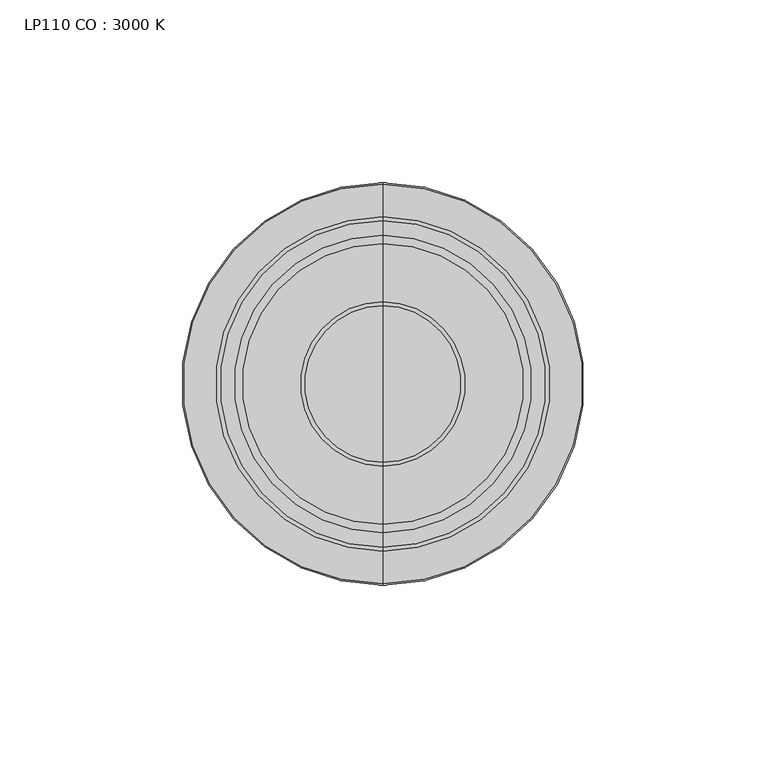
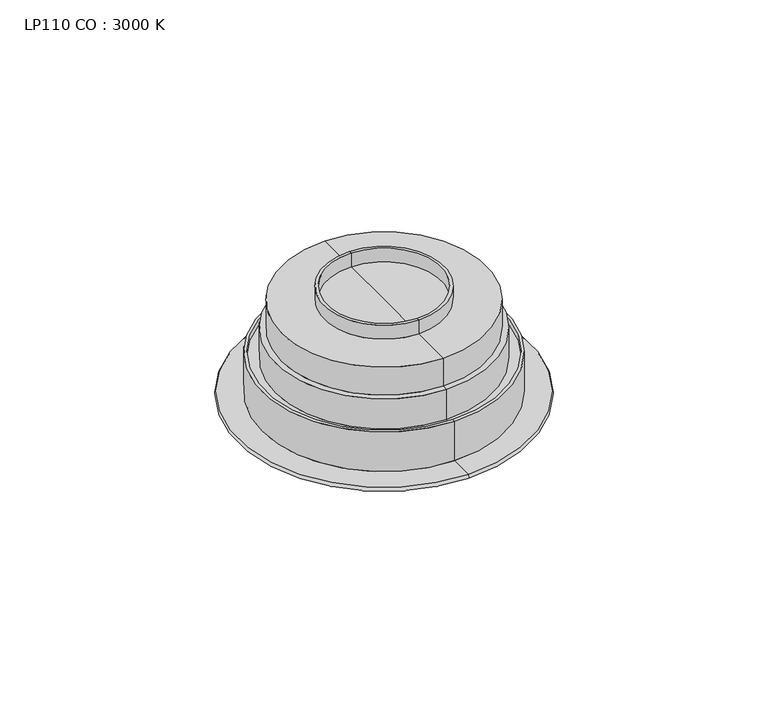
"""IFC4 building model written with IfcOpenShell, lengths in millimetres: light fixture geometry, LP110 CO : 3000 K."""

import ifcopenshell
import ifcopenshell.guid

model = None  # the IFC model being written
_history = None  # IfcOwnerHistory: only IFC2X3 demands one
_inside = {}  # id of a spatial element -> (the spatial element, [elements in it])
_under = {}  # id of a project, library or spatial element -> (it, [spatial elements below it])
_declared = {}  # id of a project -> (the project, [libraries it declares])
_typed = {}  # id of a type object -> (the type object, [elements of that type])
_made_of = {}  # id of a material, layer set ... -> (it, [elements and type objects made of it])


def new_model(schema):
    """Start an empty IFC model of exactly this schema.

    Asked for "IFC4X3", IfcOpenShell would pick the latest addendum, in which some entities
    have other attributes; the version numbers below select the first issue.
    IFC2X3 requires an IfcOwnerHistory on every rooted entity: one is made here for all.
    """
    global model, _history
    if schema == "IFC4X3":
        model = ifcopenshell.file(schema_version=(4, 3, 0, 0))
    else:
        model = ifcopenshell.file(schema=schema)
    _inside.clear()
    _under.clear()
    _declared.clear()
    _typed.clear()
    _made_of.clear()
    _history = None
    if model.schema == "IFC2X3":
        org = make("IfcOrganization", Name="unknown")
        user = make(
            "IfcPersonAndOrganization",
            ThePerson=make("IfcPerson", FamilyName="unknown"),
            TheOrganization=org,
        )
        app = make(
            "IfcApplication",
            ApplicationDeveloper=org,
            Version="unknown",
            ApplicationFullName="unknown",
            ApplicationIdentifier="unknown",
        )
        _history = make(
            "IfcOwnerHistory",
            OwningUser=user,
            OwningApplication=app,
            ChangeAction="ADDED",
            CreationDate=0,
        )
    return model


def make(cls, **values):
    """One entity of the class cls with the attributes given. An attribute that is None is left unset."""
    return model.create_entity(
        cls, **{name: value for name, value in values.items() if value is not None}
    )


def rooted(cls, **values):
    """An entity with a GlobalId (a new one), such as an element, a storey or a relation."""
    return make(cls, GlobalId=ifcopenshell.guid.new(), OwnerHistory=_history, **values)


def si_unit(unit_type, name, prefix=None):
    """IfcSIUnit, for example si_unit("LENGTHUNIT", "METRE", prefix="MILLI")."""
    return make("IfcSIUnit", UnitType=unit_type, Prefix=prefix, Name=name)


def assignment(units):
    """IfcUnitAssignment: the units of a project."""
    return None if units is None else make("IfcUnitAssignment", Units=units)


def point(xyz):
    """IfcCartesianPoint."""
    return None if xyz is None else make("IfcCartesianPoint", Coordinates=xyz)


def direction(xyz):
    """IfcDirection."""
    return None if xyz is None else make("IfcDirection", DirectionRatios=xyz)


def frame(location, z_axis=None, x_axis=None):
    """IfcAxis2Placement3D, a coordinate frame: its origin and axes. An axis left out is left unset."""
    return make(
        "IfcAxis2Placement3D",
        Location=point(location),
        Axis=direction(z_axis),
        RefDirection=direction(x_axis),
    )


def frame_2d(location, x_axis=None):
    """IfcAxis2Placement2D, a coordinate frame in the plane: its origin and x axis."""
    return make(
        "IfcAxis2Placement2D", Location=point(location), RefDirection=direction(x_axis)
    )


def origin():
    """The frame at (0, 0, 0) with its axes left unset."""
    return frame((0.0, 0.0, 0.0))


def place(relative_to, where):
    """IfcLocalPlacement: puts the frame where relative to a parent placement (None: the world)."""
    return make(
        "IfcLocalPlacement", PlacementRelTo=relative_to, RelativePlacement=where
    )


def context(
    kind, dimensions, precision=None, world=None, true_north=None, identifier=None
):
    """IfcGeometricRepresentationContext, for example the 3D "Model" context."""
    return make(
        "IfcGeometricRepresentationContext",
        ContextIdentifier=identifier,
        ContextType=kind,
        CoordinateSpaceDimension=dimensions,
        Precision=precision,
        WorldCoordinateSystem=world,
        TrueNorth=true_north,
    )


def project(units=None, contexts=None):
    """IfcProject with its units and contexts."""
    return rooted(
        "IfcProject",
        Name="project",
        RepresentationContexts=contexts,
        UnitsInContext=assignment(units),
    )


def spatial(cls, under=None, at=None, **own):
    """A site, building, storey or space (cls), placed at a placement, below another one or the project."""
    s = rooted(cls, ObjectPlacement=at, **own)
    if under is not None:
        _under.setdefault(under.id(), (under, []))[1].append(s)
    return s


def polyline(points):
    """IfcPolyline through the points."""
    return make("IfcPolyline", Points=[point(p) for p in points])


def circle_curve(where, radius):
    """IfcCircle in the frame where."""
    return make("IfcCircle", Position=where, Radius=radius)


def ellipse_curve(where, semi_axis1, semi_axis2):
    """IfcEllipse in the frame where."""
    return make(
        "IfcEllipse", Position=where, SemiAxis1=semi_axis1, SemiAxis2=semi_axis2
    )


def trimmed(basis, trim1, trim2, sense, master):
    """IfcTrimmedCurve: the piece of a basis curve between two trims."""
    return make(
        "IfcTrimmedCurve",
        BasisCurve=basis,
        Trim1=trim1,
        Trim2=trim2,
        SenseAgreement=sense,
        MasterRepresentation=master,
    )


def segment(curve, same_sense, transition):
    """IfcCompositeCurveSegment."""
    return make(
        "IfcCompositeCurveSegment",
        Transition=transition,
        SameSense=same_sense,
        ParentCurve=curve,
    )


def composite_curve(segments, self_intersect=None):
    """IfcCompositeCurve: segments joined end to end."""
    return make("IfcCompositeCurve", Segments=segments, SelfIntersect=self_intersect)


def outline(outer, holes=None, kind="AREA"):
    """IfcArbitraryClosedProfileDef: a profile drawn as a closed curve; with holes, ...WithVoids."""
    if holes is None:
        return make("IfcArbitraryClosedProfileDef", ProfileType=kind, OuterCurve=outer)
    return make(
        "IfcArbitraryProfileDefWithVoids",
        ProfileType=kind,
        OuterCurve=outer,
        InnerCurves=holes,
    )


def extrude(swept, where, along, depth):
    """IfcExtrudedAreaSolid: the profile swept, set in the frame where, extruded along a direction by depth."""
    return make(
        "IfcExtrudedAreaSolid",
        SweptArea=swept,
        Position=where,
        ExtrudedDirection=direction(along),
        Depth=depth,
    )


def shape(context_of_items, identifier, shape_type, items):
    """IfcShapeRepresentation: the items that make up one representation, for example the "Body"."""
    return make(
        "IfcShapeRepresentation",
        ContextOfItems=context_of_items,
        RepresentationIdentifier=identifier,
        RepresentationType=shape_type,
        Items=items,
    )


def source(mapping_origin, context_of_items, identifier, shape_type, items):
    """IfcRepresentationMap: a shape defined once, which mapped items show again and again."""
    return make(
        "IfcRepresentationMap",
        MappingOrigin=mapping_origin,
        MappedRepresentation=shape(context_of_items, identifier, shape_type, items),
    )


def transform(
    local_origin,
    x_axis=None,
    y_axis=None,
    z_axis=None,
    scale=None,
    scale2=None,
    scale3=None,
    uniform=True,
):
    """IfcCartesianTransformationOperator3D, or its non-uniform kind. x_axis, y_axis, z_axis: its Axis1, 2, 3."""
    if uniform:
        return make(
            "IfcCartesianTransformationOperator3D",
            Axis1=direction(x_axis),
            Axis2=direction(y_axis),
            LocalOrigin=point(local_origin),
            Scale=scale,
            Axis3=direction(z_axis),
        )
    return make(
        "IfcCartesianTransformationOperator3DnonUniform",
        Axis1=direction(x_axis),
        Axis2=direction(y_axis),
        LocalOrigin=point(local_origin),
        Scale=scale,
        Axis3=direction(z_axis),
        Scale2=scale2,
        Scale3=scale3,
    )


def mapped(mapping_source, mapping_target):
    """IfcMappedItem: shows the shape of a source again, moved by a transform."""
    return make(
        "IfcMappedItem", MappingSource=mapping_source, MappingTarget=mapping_target
    )


def made_of(thing, what):
    """Note that an element or type object is made of a material, layer set ...; save() writes the relation."""
    if what is not None:
        _made_of.setdefault(what.id(), (what, []))[1].append(thing)
    return thing


def element(
    cls,
    number,
    at=None,
    inside=None,
    cuts=None,
    type_object=None,
    material=None,
    context=None,
    identifier="Body",
    shape_type=None,
    held_by="IfcProductDefinitionShape",
    body=None,
    shapes=None,
    **own,
):
    """One element of the class cls, such as IfcWall. Its Tag is "e" and its number.

    at: its placement. inside: the storey or other place that contains it. cuts: it is an
    opening in that element (IfcRelVoidsElement). A single representation is given by context,
    identifier, shape_type and body (its items); several are given by shapes. held_by: the class
    of the entity that holds the representations. save() writes the other relations.
    """
    e = rooted(cls, Tag="e%d" % number, ObjectPlacement=at, **own)
    if body is not None:
        shapes = [shape(context, identifier, shape_type, body)]
    if shapes is not None:
        e.Representation = make(held_by, Representations=shapes)
    if inside is not None:
        _inside.setdefault(inside.id(), (inside, []))[1].append(e)
    if cuts is not None:
        rooted(
            "IfcRelVoidsElement", RelatingBuildingElement=cuts, RelatedOpeningElement=e
        )
    if type_object is not None:
        _typed.setdefault(type_object.id(), (type_object, []))[1].append(e)
    return made_of(e, material)


def aggregate(whole, parts):
    """IfcRelAggregates: a whole, such as a stair, and the parts it consists of."""
    return rooted("IfcRelAggregates", RelatingObject=whole, RelatedObjects=parts)


def save(model, path):
    """Write the relations noted so far, then the file.

    IfcRelAggregates (storeys below a building ...), IfcRelContainedInSpatialStructure (elements
    in a storey), IfcRelDefinesByType, IfcRelAssociatesMaterial and IfcRelDeclares: one each for
    every whole, place, type object, material and project.
    """
    for whole, parts in _under.values():
        aggregate(whole, parts)
    for where, things in _inside.values():
        rooted(
            "IfcRelContainedInSpatialStructure",
            RelatedElements=things,
            RelatingStructure=where,
        )
    for kind, things in _typed.values():
        rooted("IfcRelDefinesByType", RelatedObjects=things, RelatingType=kind)
    for what, things in _made_of.values():
        rooted("IfcRelAssociatesMaterial", RelatedObjects=things, RelatingMaterial=what)
    for by, libraries in _declared.values():
        rooted("IfcRelDeclares", RelatingContext=by, RelatedDefinitions=libraries)
    model.write(path)


def plane_surface(at):
    """IfcPlane: the flat surface through the origin of the frame at, square to its z axis."""
    return make("IfcPlane", Position=at)


def cylinder_surface(at, radius):
    """IfcCylindricalSurface: all points at the distance radius from the z axis of the frame at."""
    return make("IfcCylindricalSurface", Position=at, Radius=radius)


def revolved_surface(curve, axis_point, axis_direction):
    """IfcSurfaceOfRevolution: the curve turned about the line through axis_point along axis_direction."""
    return make(
        "IfcSurfaceOfRevolution",
        SweptCurve=make("IfcArbitraryOpenProfileDef", ProfileType="CURVE", Curve=curve),
        AxisPosition=make("IfcAxis1Placement", Location=point(axis_point), Axis=direction(axis_direction)),
    )


def advanced_brep(points, edges, surfaces, faces):
    """IfcAdvancedBrep: a solid bounded by faces that lie on surfaces and meet in shared edges.

    An edge is (start, end): straight between two places in points (the first is 0);
    or (start, end, curve); or (start, end, curve, False) where it runs against its curve.
    A face is (place in surfaces, loops), or (place, loops, False) where it looks against
    its surface's normal. A loop lists edges by number (the first is 1), with a minus sign
    where the edge is run from its end to its start. The first loop is the outer one.
    """
    corners = [point(p) for p in points]
    vertices = [make("IfcVertexPoint", VertexGeometry=c) for c in corners]
    made = []
    for start, end, *more in edges:
        made.append(
            make(
                "IfcEdgeCurve",
                EdgeStart=vertices[start],
                EdgeEnd=vertices[end],
                EdgeGeometry=more[0] if more else make("IfcPolyline", Points=[corners[start], corners[end]]),
                SameSense=more[1] if len(more) > 1 else True,
            )
        )
    hull = []
    for where, loops, *sense in faces:
        bounds = []
        for j, loop in enumerate(loops):
            ring = [make("IfcOrientedEdge", EdgeElement=made[abs(k) - 1], Orientation=k > 0) for k in loop]
            bounds.append(
                make(
                    "IfcFaceOuterBound" if j == 0 else "IfcFaceBound",
                    Bound=make("IfcEdgeLoop", EdgeList=ring),
                    Orientation=True,
                )
            )
        hull.append(make("IfcAdvancedFace", Bounds=bounds, FaceSurface=surfaces[where], SameSense=sense[0] if sense else True))
    return make("IfcAdvancedBrep", Outer=make("IfcClosedShell", CfsFaces=hull))


def lp110_co_3000_k_61e16603(model_context):
    return source(origin(), model_context, "Body", "SolidModel", [
        advanced_brep(
        [(-14.9633905, 0.0, 3982.2801125), (14.9633905, 0.0, 3982.2801125), (3.792903, 0.0, 3980.55143), (-3.792903, 0.0, 3980.55143), (0.0, 0.0, 3982.2801125), (3.485496, 0.0, 3980.55143), (-3.4925598, 0.0, 3980.55143), (-3.4925954, -0.0157564, 3981.9900072), (3.4855316, -0.0157564, 3981.9900072)],
        [
            (0, 1, circle_curve(frame((0.0, 0.0, 3982.2801125), z_axis=(0.0, 0.0, -1.0), x_axis=(1.0, 0.0, 0.0)), 14.9633905)),
            (1, 2, circle_curve(frame((3.792903, 0.0, 4017.5067795), z_axis=(0.0, 1.0, 0.0), x_axis=(1.0, 0.0, 0.0)), 36.9553496)),
            (2, 3, circle_curve(frame((0.0, 0.0, 3980.55143), z_axis=(0.0, 0.0, 1.0), x_axis=(1.0, 0.0, 0.0)), 3.792903)),
            (3, 0, circle_curve(frame((-3.792903, 0.0, 4017.5067795), z_axis=(0.0, 1.0, 0.0), x_axis=(-1.0, 0.0, 0.0)), 36.9553496)),
            (1, 0, circle_curve(frame((0.0, 0.0, 3982.2801125), z_axis=(0.0, 0.0, -1.0), x_axis=(1.0, 0.0, 0.0)), 14.9633905)),
            (3, 2, circle_curve(frame((0.0, 0.0, 3980.55143), z_axis=(0.0, 0.0, 1.0), x_axis=(1.0, 0.0, 0.0)), 3.792903)),
            (0, 4),
            (4, 1),
            (2, 5),
            (5, 6, circle_curve(frame((-0.0035319, -0.0157564, 3980.55143), z_axis=(0.0, 0.0, 1.0), x_axis=(1.0, 0.0, 0.0)), 3.4890635)),
            (6, 3),
            (6, 5, circle_curve(frame((-0.0035319, -0.0157564, 3980.55143), z_axis=(0.0, 0.0, 1.0), x_axis=(1.0, 0.0, 0.0)), 3.4890635)),
            (7, 8, circle_curve(frame((-0.0035319, -0.0157564, 3981.9900072), z_axis=(0.0, 0.0, -1.0), x_axis=(1.0, 0.0, 0.0)), 3.4890635)),
            (8, 7, circle_curve(frame((-0.0035319, -0.0157564, 3981.9900072), z_axis=(0.0, 0.0, -1.0), x_axis=(1.0, 0.0, 0.0)), 3.4890635)),
            (8, 5),
            (6, 7),
        ],
        [
            revolved_surface(trimmed(ellipse_curve(frame((3.792903, 0.0, 4017.5067795), z_axis=(0.0, -1.0, 0.0), x_axis=(1.0, 0.0, 0.0)), 36.9553496, 36.9553496), [point((3.792903, 0.0, 3980.55143))], [point((14.9633905, 0.0, 3982.2801125))], True, "CARTESIAN"), (0.0, 0.0, 4324.4347907), (0.0, 0.0, 1.0)),
            plane_surface(frame((0.0, 0.0, 3982.2801125), z_axis=(0.0, 0.0, 1.0), x_axis=(1.0, 0.0, 0.0))),
            plane_surface(frame((0.0, 0.0, 3980.55143), z_axis=(0.0, 0.0, -1.0), x_axis=(1.0, 0.0, 0.0))),
            plane_surface(frame((3.4855316, -0.0157564, 3981.9900072), z_axis=(0.0, 0.0, -1.0), x_axis=(0.0, 1.0, 0.0))),
            revolved_surface(polyline([(3.4855316, -0.0157564, 3981.9900072), (3.4855316, -0.0157564, 3980.55143)]), (-0.0035319, -0.0157564, 3980.3246208), (0.0, 0.0, 1.0)),
        ],
        [
            (0, [[1, 2, 3, 4]]),
            (0, [[-2, 5, -4, 6]]),
            (1, [[-1, 7, 8]]),
            (1, [[-5, -8, -7]]),
            (2, [[-3, 9, 10, 11]]),
            (2, [[-6, -11, 12, -9]]),
            (3, [[13, 14]]),
            (4, [[-14, 15, -12, 16]]),
            (4, [[-13, -16, -10, -15]]),
        ],
    ),
        extrude(outline(composite_curve([segment(trimmed(circle_curve(frame_2d((2.37e-05, -0.0016166)), 40.0), [point((-39.9999763, -0.0016166))], [point((40.0000237, -0.0016166))], False, "CARTESIAN"), True, "CONTINUOUS"), segment(trimmed(circle_curve(frame_2d((2.37e-05, -0.0016166)), 40.0), [point((40.0000237, -0.0016166))], [point((-39.9999763, -0.0016166))], False, "CARTESIAN"), True, "CONTINUOUS")], self_intersect=False), holes=[composite_curve([segment(trimmed(circle_curve(frame_2d((2.37e-05, -0.0016166)), 29.1123547), [point((-29.112331, -0.0016166))], [point((29.1123784, -0.0016166))], True, "CARTESIAN"), True, "CONTINUOUS"), segment(trimmed(circle_curve(frame_2d((2.37e-05, -0.0016166)), 29.1123547), [point((29.1123784, -0.0016166))], [point((-29.112331, -0.0016166))], True, "CARTESIAN"), True, "CONTINUOUS")], self_intersect=False)]), frame((0.0, 0.0, 3993.7328869), z_axis=(0.0, 0.0, 1.0), x_axis=(1.0, 0.0, 0.0)), (0.0, 0.0, 1.0), 0.5),
        advanced_brep(
        [(0.0, 19.2991185, 3992.1100072), (0.0, -19.2991185, 3992.1100072), (0.0, -19.2991185, 3994.9717385), (0.0, 19.2991185, 3994.9717385), (0.0, 0.0, 3992.1100072), (0.0, 0.0, 3994.9717385)],
        [
            (0, 1, circle_curve(frame((0.0, 0.0, 3992.1100072), z_axis=(0.0, 0.0, 1.0), x_axis=(0.0, -1.0, 0.0)), 19.2991185)),
            (1, 2),
            (2, 3, circle_curve(frame((0.0, 0.0, 3994.9717385), z_axis=(0.0, 0.0, -1.0), x_axis=(0.0, -1.0, 0.0)), 19.2991185)),
            (3, 0),
            (1, 0, circle_curve(frame((0.0, 0.0, 3992.1100072), z_axis=(0.0, 0.0, 1.0), x_axis=(0.0, -1.0, 0.0)), 19.2991185)),
            (3, 2, circle_curve(frame((0.0, 0.0, 3994.9717385), z_axis=(0.0, 0.0, -1.0), x_axis=(0.0, -1.0, 0.0)), 19.2991185)),
            (4, 1),
            (0, 4),
            (2, 5),
            (5, 3),
        ],
        [
            cylinder_surface(frame((0.0, 0.0, 4284.4582372), z_axis=(0.0, 0.0, -1.0), x_axis=(0.0, -1.0, 0.0)), 19.2991185),
            plane_surface(frame((0.0, 0.0, 3992.1100072), z_axis=(0.0, 0.0, -1.0), x_axis=(0.0, -1.0, 0.0))),
            plane_surface(frame((0.0, 0.0, 3994.9717385), z_axis=(0.0, 0.0, 1.0), x_axis=(0.0, -1.0, 0.0))),
        ],
        [
            (0, [[1, 2, 3, 4]]),
            (0, [[5, -4, 6, -2]]),
            (1, [[7, -1, 8]]),
            (1, [[-8, -5, -7]]),
            (2, [[-3, 9, 10]]),
            (2, [[-6, -10, -9]]),
        ],
    ),
        advanced_brep(
        [(0.0, 38.41986, 4025.2200055), (0.0, -38.41986, 4025.2200055), (0.0, -38.41986, 4036.27), (0.0, 38.41986, 4036.27), (0.0, 40.6278014, 4025.2200055), (0.0, -40.6278014, 4025.2200055), (0.0, 40.6278014, 4013.3214017), (0.0, -40.6278014, 4013.3214017), (0.0, 44.6302193, 4013.3214017), (0.0, -44.6302193, 4013.3214017), (0.0, 44.6302193, 4015.63), (0.0, -44.6302193, 4015.63), (0.0, 45.6921331, 4015.63), (0.0, -45.6921331, 4015.63), (0.0, 45.6921331, 4000.0), (0.0, -45.6921331, 4000.0), (0.0, 0.0, 4000.0), (0.0, -22.4510975, 4036.27), (0.0, 22.4510975, 4036.27), (0.0, 21.4345521, 4036.27), (0.0, -21.4345521, 4036.27), (0.0, 0.0, 4036.27), (0.0, 21.4345521, 4041.77), (0.0, -21.4345521, 4041.77), (0.0, 22.4510975, 4041.77), (0.0, -22.4510975, 4041.77)],
        [
            (0, 1, circle_curve(frame((0.0, 0.0, 4025.2200055), z_axis=(0.0, 0.0, 1.0), x_axis=(0.0, -1.0, 0.0)), 38.41986)),
            (1, 2),
            (2, 3, circle_curve(frame((0.0, 0.0, 4036.27), z_axis=(0.0, 0.0, -1.0), x_axis=(0.0, -1.0, 0.0)), 38.41986)),
            (3, 0),
            (1, 0, circle_curve(frame((0.0, 0.0, 4025.2200055), z_axis=(0.0, 0.0, 1.0), x_axis=(0.0, -1.0, 0.0)), 38.41986)),
            (3, 2, circle_curve(frame((0.0, 0.0, 4036.27), z_axis=(0.0, 0.0, -1.0), x_axis=(0.0, -1.0, 0.0)), 38.41986)),
            (4, 5, circle_curve(frame((0.0, 0.0, 4025.2200055), z_axis=(0.0, 0.0, 1.0), x_axis=(0.0, -1.0, 0.0)), 40.6278014)),
            (5, 1),
            (0, 4),
            (5, 4, circle_curve(frame((0.0, 0.0, 4025.2200055), z_axis=(0.0, 0.0, 1.0), x_axis=(0.0, -1.0, 0.0)), 40.6278014)),
            (6, 7, circle_curve(frame((0.0, 0.0, 4013.3214017), z_axis=(0.0, 0.0, 1.0), x_axis=(0.0, -1.0, 0.0)), 40.6278014)),
            (7, 5),
            (4, 6),
            (7, 6, circle_curve(frame((0.0, 0.0, 4013.3214017), z_axis=(0.0, 0.0, 1.0), x_axis=(0.0, -1.0, 0.0)), 40.6278014)),
            (8, 9, circle_curve(frame((0.0, 0.0, 4013.3214017), z_axis=(0.0, 0.0, 1.0), x_axis=(0.0, -1.0, 0.0)), 44.6302193)),
            (9, 7),
            (6, 8),
            (9, 8, circle_curve(frame((0.0, 0.0, 4013.3214017), z_axis=(0.0, 0.0, 1.0), x_axis=(0.0, -1.0, 0.0)), 44.6302193)),
            (10, 11, circle_curve(frame((0.0, 0.0, 4015.63), z_axis=(0.0, 0.0, 1.0), x_axis=(0.0, -1.0, 0.0)), 44.6302193)),
            (11, 9),
            (8, 10),
            (11, 10, circle_curve(frame((0.0, 0.0, 4015.63), z_axis=(0.0, 0.0, 1.0), x_axis=(0.0, -1.0, 0.0)), 44.6302193)),
            (12, 13, circle_curve(frame((0.0, 0.0, 4015.63), z_axis=(0.0, 0.0, 1.0), x_axis=(0.0, -1.0, 0.0)), 45.6921331)),
            (13, 11),
            (10, 12),
            (13, 12, circle_curve(frame((0.0, 0.0, 4015.63), z_axis=(0.0, 0.0, 1.0), x_axis=(0.0, -1.0, 0.0)), 45.6921331)),
            (14, 15, circle_curve(frame((0.0, 0.0, 4000.0), z_axis=(0.0, 0.0, 1.0), x_axis=(0.0, -1.0, 0.0)), 45.6921331)),
            (15, 13),
            (12, 14),
            (15, 14, circle_curve(frame((0.0, 0.0, 4000.0), z_axis=(0.0, 0.0, 1.0), x_axis=(0.0, -1.0, 0.0)), 45.6921331)),
            (16, 15),
            (14, 16),
            (2, 17),
            (17, 18, circle_curve(frame((0.0, 0.0, 4036.27), z_axis=(0.0, 0.0, -1.0), x_axis=(0.0, -1.0, 0.0)), 22.4510975)),
            (18, 3),
            (18, 17, circle_curve(frame((0.0, 0.0, 4036.27), z_axis=(0.0, 0.0, -1.0), x_axis=(0.0, -1.0, 0.0)), 22.4510975)),
            (19, 20, circle_curve(frame((0.0, 0.0, 4036.27), z_axis=(0.0, 0.0, 1.0), x_axis=(0.0, -1.0, 0.0)), 21.4345521)),
            (20, 21),
            (21, 19),
            (20, 19, circle_curve(frame((0.0, 0.0, 4036.27), z_axis=(0.0, 0.0, 1.0), x_axis=(0.0, -1.0, 0.0)), 21.4345521)),
            (22, 23, circle_curve(frame((0.0, 0.0, 4041.77), z_axis=(0.0, 0.0, 1.0), x_axis=(0.0, -1.0, 0.0)), 21.4345521)),
            (23, 20),
            (19, 22),
            (23, 22, circle_curve(frame((0.0, 0.0, 4041.77), z_axis=(0.0, 0.0, 1.0), x_axis=(0.0, -1.0, 0.0)), 21.4345521)),
            (24, 25, circle_curve(frame((0.0, 0.0, 4041.77), z_axis=(0.0, 0.0, 1.0), x_axis=(0.0, -1.0, 0.0)), 22.4510975)),
            (25, 23),
            (22, 24),
            (25, 24, circle_curve(frame((0.0, 0.0, 4041.77), z_axis=(0.0, 0.0, 1.0), x_axis=(0.0, -1.0, 0.0)), 22.4510975)),
            (17, 25),
            (24, 18),
        ],
        [
            cylinder_surface(frame((0.0, 0.0, 4369.9206714), z_axis=(0.0, 0.0, -1.0), x_axis=(0.0, -1.0, 0.0)), 38.41986),
            plane_surface(frame((0.0, 0.0, 4025.2200055), z_axis=(0.0, 0.0, 1.0), x_axis=(0.0, -1.0, 0.0))),
            cylinder_surface(frame((0.0, 0.0, 4369.9206714), z_axis=(0.0, 0.0, -1.0), x_axis=(0.0, -1.0, 0.0)), 40.6278014),
            plane_surface(frame((0.0, 0.0, 4013.3214017), z_axis=(0.0, 0.0, 1.0), x_axis=(0.0, -1.0, 0.0))),
            revolved_surface(polyline([(0.0, -44.6302193, 4013.3214017), (0.0, -44.6302193, 4015.63)]), (0.0, 0.0, 4369.9206714), (0.0, 0.0, -1.0)),
            plane_surface(frame((0.0, 0.0, 4015.63), z_axis=(0.0, 0.0, 1.0), x_axis=(0.0, -1.0, 0.0))),
            cylinder_surface(frame((0.0, 0.0, 4369.9206714), z_axis=(0.0, 0.0, -1.0), x_axis=(0.0, -1.0, 0.0)), 45.6921331),
            plane_surface(frame((0.0, 0.0, 4000.0), z_axis=(0.0, 0.0, -1.0), x_axis=(0.0, -1.0, 0.0))),
            plane_surface(frame((0.0, 0.0, 4036.27), z_axis=(0.0, 0.0, 1.0), x_axis=(0.0, -1.0, 0.0))),
            revolved_surface(polyline([(0.0, -21.4345521, 4036.27), (0.0, -21.4345521, 4041.77)]), (0.0, 0.0, 4369.9206714), (0.0, 0.0, -1.0)),
            plane_surface(frame((0.0, 0.0, 4041.77), z_axis=(0.0, 0.0, 1.0), x_axis=(0.0, -1.0, 0.0))),
            cylinder_surface(frame((0.0, 0.0, 4369.9206714), z_axis=(0.0, 0.0, -1.0), x_axis=(0.0, -1.0, 0.0)), 22.4510975),
        ],
        [
            (0, [[1, 2, 3, 4]]),
            (0, [[5, -4, 6, -2]]),
            (1, [[7, 8, -1, 9]]),
            (1, [[10, -9, -5, -8]]),
            (2, [[11, 12, -7, 13]]),
            (2, [[14, -13, -10, -12]]),
            (3, [[15, 16, -11, 17]]),
            (3, [[18, -17, -14, -16]]),
            (4, [[19, 20, -15, 21]]),
            (4, [[22, -21, -18, -20]]),
            (5, [[23, 24, -19, 25]]),
            (5, [[26, -25, -22, -24]]),
            (6, [[27, 28, -23, 29]]),
            (6, [[30, -29, -26, -28]]),
            (7, [[31, -27, 32]]),
            (7, [[-32, -30, -31]]),
            (8, [[-3, 33, 34, 35]]),
            (8, [[-6, -35, 36, -33]]),
            (8, [[37, 38, 39]]),
            (8, [[40, -39, -38]]),
            (9, [[41, 42, -37, 43]]),
            (9, [[44, -43, -40, -42]]),
            (10, [[45, 46, -41, 47]]),
            (10, [[48, -47, -44, -46]]),
            (11, [[-34, 49, -45, 50]]),
            (11, [[-36, -50, -48, -49]]),
        ],
    ),
        advanced_brep(
        [(-17.3801122, 0.0, 3983.4703857), (17.3801122, 0.0, 3983.4703857), (0.0, 0.0, 3983.4703857), (-20.0285612, 0.0, 3988.492432), (20.0285612, 0.0, 3988.492432), (-20.0285612, 0.0, 3992.1100072), (20.0285612, 0.0, 3992.1100072), (0.0, 0.0, 3992.1100072)],
        [
            (0, 1, circle_curve(frame((0.0, 0.0, 3983.4703857), z_axis=(0.0, 0.0, -1.0), x_axis=(1.0, 0.0, 0.0)), 17.3801122)),
            (1, 2),
            (2, 0),
            (1, 0, circle_curve(frame((0.0, 0.0, 3983.4703857), z_axis=(0.0, 0.0, -1.0), x_axis=(1.0, 0.0, 0.0)), 17.3801122)),
            (3, 4, circle_curve(frame((0.0, 0.0, 3988.492432), z_axis=(0.0, 0.0, -1.0), x_axis=(1.0, 0.0, 0.0)), 20.0285612)),
            (4, 1, circle_curve(frame((13.9428803, 0.0, 3988.492432), z_axis=(0.0, 1.0, 0.0), x_axis=(1.0, 0.0, 0.0)), 6.0856809)),
            (0, 3, circle_curve(frame((-13.9428803, 0.0, 3988.492432), z_axis=(0.0, 1.0, 0.0), x_axis=(-1.0, 0.0, 0.0)), 6.0856809)),
            (4, 3, circle_curve(frame((0.0, 0.0, 3988.492432), z_axis=(0.0, 0.0, -1.0), x_axis=(1.0, 0.0, 0.0)), 20.0285612)),
            (5, 6, circle_curve(frame((0.0, 0.0, 3992.1100072), z_axis=(0.0, 0.0, -1.0), x_axis=(1.0, 0.0, 0.0)), 20.0285612)),
            (6, 4),
            (3, 5),
            (6, 5, circle_curve(frame((0.0, 0.0, 3992.1100072), z_axis=(0.0, 0.0, -1.0), x_axis=(1.0, 0.0, 0.0)), 20.0285612)),
            (7, 6),
            (5, 7),
        ],
        [
            plane_surface(frame((0.0, 0.0, 3983.4703857), z_axis=(0.0, 0.0, -1.0), x_axis=(1.0, 0.0, 0.0))),
            revolved_surface(trimmed(ellipse_curve(frame((13.9428803, 0.0, 3988.492432), z_axis=(0.0, -1.0, 0.0), x_axis=(1.0, 0.0, 0.0)), 6.0856809, 6.0856809), [point((17.3801122, 0.0, 3983.4703857))], [point((20.0285612, 0.0, 3988.492432))], True, "CARTESIAN"), (0.0, 0.0, 4324.4347907), (0.0, 0.0, 1.0)),
            cylinder_surface(frame((0.0, 0.0, 4324.4347907), z_axis=(0.0, 0.0, 1.0), x_axis=(1.0, 0.0, 0.0)), 20.0285612),
            plane_surface(frame((0.0, 0.0, 3992.1100072), z_axis=(0.0, 0.0, 1.0), x_axis=(1.0, 0.0, 0.0))),
        ],
        [
            (0, [[1, 2, 3]]),
            (0, [[4, -3, -2]]),
            (1, [[5, 6, -1, 7]]),
            (1, [[8, -7, -4, -6]]),
            (2, [[9, 10, -5, 11]]),
            (2, [[12, -11, -8, -10]]),
            (3, [[13, -9, 14]]),
            (3, [[-14, -12, -13]]),
        ],
    ),
        advanced_brep(
        [(-17.3801122, 0.0, 3984.9900072), (17.3801122, 0.0, 3984.9900072), (17.3801122, 0.0, 3983.4703857), (-17.3801122, 0.0, 3983.4703857), (0.0, 0.0, 3984.9900072), (-16.685632, 0.0, 3983.0694274), (16.685632, 0.0, 3983.0694274), (0.0, 0.0, 3983.0694274)],
        [
            (0, 1, circle_curve(frame((0.0, 0.0, 3984.9900072), z_axis=(0.0, 0.0, -1.0), x_axis=(1.0, 0.0, 0.0)), 17.3801122)),
            (1, 2),
            (2, 3, circle_curve(frame((0.0, 0.0, 3983.4703857), z_axis=(0.0, 0.0, 1.0), x_axis=(1.0, 0.0, 0.0)), 17.3801122)),
            (3, 0),
            (1, 0, circle_curve(frame((0.0, 0.0, 3984.9900072), z_axis=(0.0, 0.0, -1.0), x_axis=(1.0, 0.0, 0.0)), 17.3801122)),
            (3, 2, circle_curve(frame((0.0, 0.0, 3983.4703857), z_axis=(0.0, 0.0, 1.0), x_axis=(1.0, 0.0, 0.0)), 17.3801122)),
            (4, 1),
            (0, 4),
            (5, 6, circle_curve(frame((0.0, 0.0, 3983.0694274), z_axis=(0.0, 0.0, -1.0), x_axis=(1.0, 0.0, 0.0)), 16.685632)),
            (6, 7),
            (7, 5),
            (6, 5, circle_curve(frame((0.0, 0.0, 3983.0694274), z_axis=(0.0, 0.0, -1.0), x_axis=(1.0, 0.0, 0.0)), 16.685632)),
            (2, 6),
            (5, 3),
        ],
        [
            cylinder_surface(frame((0.0, 0.0, 4324.4347907), z_axis=(0.0, 0.0, 1.0), x_axis=(1.0, 0.0, 0.0)), 17.3801122),
            plane_surface(frame((0.0, 0.0, 3984.9900072), z_axis=(0.0, 0.0, 1.0), x_axis=(1.0, 0.0, 0.0))),
            plane_surface(frame((0.0, 0.0, 3983.0694274), z_axis=(0.0, 0.0, -1.0), x_axis=(1.0, 0.0, 0.0))),
            revolved_surface(polyline([(16.685632, 0.0, 3983.0694274), (17.3801122, 0.0, 3983.4703857)]), (0.0, 0.0, 4324.4347907), (0.0, 0.0, 1.0)),
        ],
        [
            (0, [[1, 2, 3, 4]]),
            (0, [[5, -4, 6, -2]]),
            (1, [[7, -1, 8]]),
            (1, [[-8, -5, -7]]),
            (2, [[9, 10, 11]]),
            (2, [[12, -11, -10]]),
            (3, [[-3, 13, -9, 14]]),
            (3, [[-6, -14, -12, -13]]),
        ],
    ),
        advanced_brep(
        [(-14.9633905, 0.0, 3982.2801125), (14.9633905, 0.0, 3982.2801125), (0.0, 0.0, 3982.2801125), (-16.685632, 0.0, 3983.0694274), (16.685632, 0.0, 3983.0694274), (0.0, 0.0, 3983.0694274)],
        [
            (0, 1, circle_curve(frame((0.0, 0.0, 3982.2801125), z_axis=(0.0, 0.0, -1.0), x_axis=(1.0, 0.0, 0.0)), 14.9633905)),
            (1, 2),
            (2, 0),
            (1, 0, circle_curve(frame((0.0, 0.0, 3982.2801125), z_axis=(0.0, 0.0, -1.0), x_axis=(1.0, 0.0, 0.0)), 14.9633905)),
            (3, 4, circle_curve(frame((0.0, 0.0, 3983.0694274), z_axis=(0.0, 0.0, -1.0), x_axis=(1.0, 0.0, 0.0)), 16.685632)),
            (4, 1, circle_curve(frame((6.5615696, 0.0, 4002.8859964), z_axis=(0.0, 1.0, 0.0), x_axis=(1.0, 0.0, 0.0)), 22.2529335)),
            (0, 3, circle_curve(frame((-6.5615696, 0.0, 4002.8859964), z_axis=(0.0, 1.0, 0.0), x_axis=(-1.0, 0.0, 0.0)), 22.2529335)),
            (4, 3, circle_curve(frame((0.0, 0.0, 3983.0694274), z_axis=(0.0, 0.0, -1.0), x_axis=(1.0, 0.0, 0.0)), 16.685632)),
            (5, 4),
            (3, 5),
        ],
        [
            plane_surface(frame((0.0, 0.0, 3982.2801125), z_axis=(0.0, 0.0, -1.0), x_axis=(1.0, 0.0, 0.0))),
            revolved_surface(trimmed(ellipse_curve(frame((6.5615696, 0.0, 4002.8859964), z_axis=(0.0, -1.0, 0.0), x_axis=(1.0, 0.0, 0.0)), 22.2529335, 22.2529335), [point((14.9633905, 0.0, 3982.2801125))], [point((16.685632, 0.0, 3983.0694274))], True, "CARTESIAN"), (0.0, 0.0, 4324.4347907), (0.0, 0.0, 1.0)),
            plane_surface(frame((0.0, 0.0, 3983.0694274), z_axis=(0.0, 0.0, 1.0), x_axis=(1.0, 0.0, 0.0))),
        ],
        [
            (0, [[1, 2, 3]]),
            (0, [[4, -3, -2]]),
            (1, [[5, 6, -1, 7]]),
            (1, [[8, -7, -4, -6]]),
            (2, [[9, -5, 10]]),
            (2, [[-10, -8, -9]]),
        ],
    ),
        advanced_brep(
        [(0.0, 45.5019222, 4000.0), (0.0, -45.5019222, 4000.0), (0.0, 0.0, 4000.0), (0.0, 46.154328, 3998.87), (0.0, -46.154328, 3998.87), (0.0, 0.0, 3998.87)],
        [
            (0, 1, circle_curve(frame((0.0, 0.0, 4000.0), z_axis=(0.0, 0.0, 1.0), x_axis=(0.0, -1.0, 0.0)), 45.5019222)),
            (1, 2),
            (2, 0),
            (1, 0, circle_curve(frame((0.0, 0.0, 4000.0), z_axis=(0.0, 0.0, 1.0), x_axis=(0.0, -1.0, 0.0)), 45.5019222)),
            (3, 4, circle_curve(frame((0.0, 0.0, 3998.87), z_axis=(0.0, 0.0, 1.0), x_axis=(0.0, -1.0, 0.0)), 46.154328)),
            (4, 1, circle_curve(frame((0.0, -46.2918945, 3999.7027574), z_axis=(1.0, 0.0, 0.0), x_axis=(0.0, -1.0, 0.0)), 0.8440435)),
            (0, 3, circle_curve(frame((0.0, 46.2918945, 3999.7027574), z_axis=(1.0, 0.0, 0.0), x_axis=(0.0, 1.0, 0.0)), 0.8440435)),
            (4, 3, circle_curve(frame((0.0, 0.0, 3998.87), z_axis=(0.0, 0.0, 1.0), x_axis=(0.0, -1.0, 0.0)), 46.154328)),
            (5, 4),
            (3, 5),
        ],
        [
            plane_surface(frame((0.0, 0.0, 4000.0), z_axis=(0.0, 0.0, 1.0), x_axis=(0.0, -1.0, 0.0))),
            revolved_surface(trimmed(ellipse_curve(frame((0.0, -46.2918945, 3999.7027574), z_axis=(-1.0, 0.0, 0.0), x_axis=(0.0, -1.0, 0.0)), 0.8440435, 0.8440435), [point((0.0, -45.5019222, 4000.0))], [point((0.0, -46.154328, 3998.87))], True, "CARTESIAN"), (0.0, 0.0, 4284.4582372), (0.0, 0.0, -1.0)),
            plane_surface(frame((0.0, 0.0, 3998.87), z_axis=(0.0, 0.0, -1.0), x_axis=(0.0, -1.0, 0.0))),
        ],
        [
            (0, [[1, 2, 3]]),
            (0, [[4, -3, -2]]),
            (1, [[5, 6, -1, 7]]),
            (1, [[8, -7, -4, -6]]),
            (2, [[9, -5, 10]]),
            (2, [[-10, -8, -9]]),
        ],
    ),
        advanced_brep(
        [(0.0, 0.0, 3994.29), (0.0, -45.7646814, 3994.29), (0.0, 45.7646814, 3994.29), (0.0, 54.6604744, 4000.0), (0.0, -54.6604744, 4000.0), (0.0, 0.0, 4000.0), (0.0, 54.443699, 3998.2336349), (0.0, -54.443699, 3998.2336349), (0.0, 48.308964, 3994.9717385), (0.0, -48.308964, 3994.9717385)],
        [
            (0, 1),
            (1, 2, circle_curve(frame((0.0, 0.0, 3994.29), z_axis=(0.0, 0.0, -1.0), x_axis=(0.0, -1.0, 0.0)), 45.7646814)),
            (2, 0),
            (2, 1, circle_curve(frame((0.0, 0.0, 3994.29), z_axis=(0.0, 0.0, -1.0), x_axis=(0.0, -1.0, 0.0)), 45.7646814)),
            (3, 4, circle_curve(frame((0.0, 0.0, 4000.0), z_axis=(0.0, 0.0, 1.0), x_axis=(0.0, -1.0, 0.0)), 54.6604744)),
            (4, 5),
            (5, 3),
            (4, 3, circle_curve(frame((0.0, 0.0, 4000.0), z_axis=(0.0, 0.0, 1.0), x_axis=(0.0, -1.0, 0.0)), 54.6604744)),
            (6, 7, circle_curve(frame((0.0, 0.0, 3998.2336349), z_axis=(0.0, 0.0, 1.0), x_axis=(0.0, -1.0, 0.0)), 54.443699)),
            (7, 4, circle_curve(frame((0.0, -53.9337541, 3999.1927017), z_axis=(-1.0, 0.0, 0.0), x_axis=(0.0, -1.0, 0.0)), 1.0862104)),
            (3, 6, circle_curve(frame((0.0, 53.9337541, 3999.1927017), z_axis=(-1.0, 0.0, 0.0), x_axis=(0.0, 1.0, 0.0)), 1.0862104)),
            (7, 6, circle_curve(frame((0.0, 0.0, 3998.2336349), z_axis=(0.0, 0.0, 1.0), x_axis=(0.0, -1.0, 0.0)), 54.443699)),
            (8, 9, circle_curve(frame((0.0, 0.0, 3994.9717385), z_axis=(0.0, 0.0, 1.0), x_axis=(0.0, -1.0, 0.0)), 48.308964)),
            (9, 7),
            (6, 8),
            (9, 8, circle_curve(frame((0.0, 0.0, 3994.9717385), z_axis=(0.0, 0.0, 1.0), x_axis=(0.0, -1.0, 0.0)), 48.308964)),
            (1, 9, circle_curve(frame((0.0, -45.7646814, 3999.3785652), z_axis=(-1.0, 0.0, 0.0), x_axis=(0.0, -1.0, 0.0)), 5.0885652)),
            (8, 2, circle_curve(frame((0.0, 45.7646814, 3999.3785652), z_axis=(-1.0, 0.0, 0.0), x_axis=(0.0, 1.0, 0.0)), 5.0885652)),
        ],
        [
            plane_surface(frame((0.0, 0.0, 3994.29), z_axis=(0.0, 0.0, -1.0), x_axis=(0.0, -1.0, 0.0))),
            plane_surface(frame((0.0, 0.0, 4000.0), z_axis=(0.0, 0.0, 1.0), x_axis=(0.0, -1.0, 0.0))),
            revolved_surface(trimmed(ellipse_curve(frame((0.0, -53.9337541, 3999.1927017), z_axis=(1.0, 0.0, 0.0), x_axis=(0.0, -1.0, 0.0)), 1.0862104, 1.0862104), [point((0.0, -54.6604744, 4000.0))], [point((0.0, -54.443699, 3998.2336349))], True, "CARTESIAN"), (0.0, 0.0, 4284.4582372), (0.0, 0.0, -1.0)),
            revolved_surface(polyline([(0.0, -54.443699, 3998.2336349), (0.0, -48.308964, 3994.9717385)]), (0.0, 0.0, 4284.4582372), (0.0, 0.0, -1.0)),
            revolved_surface(trimmed(ellipse_curve(frame((0.0, -45.7646814, 3999.3785652), z_axis=(1.0, 0.0, 0.0), x_axis=(0.0, -1.0, 0.0)), 5.0885652, 5.0885652), [point((0.0, -48.308964, 3994.9717385))], [point((0.0, -45.7646814, 3994.29))], True, "CARTESIAN"), (0.0, 0.0, 4284.4582372), (0.0, 0.0, -1.0)),
        ],
        [
            (0, [[1, 2, 3]]),
            (0, [[-3, 4, -1]]),
            (1, [[5, 6, 7]]),
            (1, [[8, -7, -6]]),
            (2, [[9, 10, -5, 11]]),
            (2, [[12, -11, -8, -10]]),
            (3, [[13, 14, -9, 15]]),
            (3, [[16, -15, -12, -14]]),
            (4, [[-2, 17, -13, 18]]),
            (4, [[-4, -18, -16, -17]]),
        ],
    ),
    ])


if __name__ == "__main__":
    model = new_model("IFC4")
    model_context = context("Model", 3, world=origin())
    ifc_project = project(units=[si_unit("LENGTHUNIT", "METRE", prefix="MILLI")], contexts=[model_context])
    site = spatial("IfcSite", under=ifc_project)
    building = spatial("IfcBuilding", under=site)
    placement = place(None, origin())
    lp110_co_3000_k_shape = lp110_co_3000_k_61e16603(model_context)
    element("IfcLightFixture", 1, ObjectType="LP110 CO : 3000 K", at=placement, inside=building, context=model_context, shape_type="MappedRepresentation", body=[
        mapped(lp110_co_3000_k_shape, transform((0.0, 0.0, 0.0), x_axis=(1.0, 0.0, 0.0), y_axis=(0.0, 1.0, 0.0), z_axis=(0.0, 0.0, 1.0))),
    ])
    save(model, "model.ifc")
